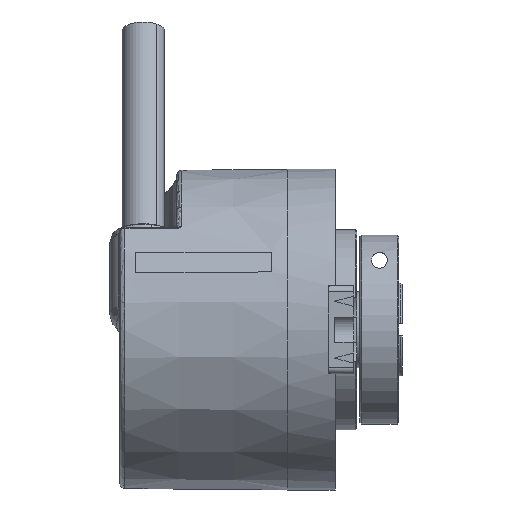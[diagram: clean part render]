
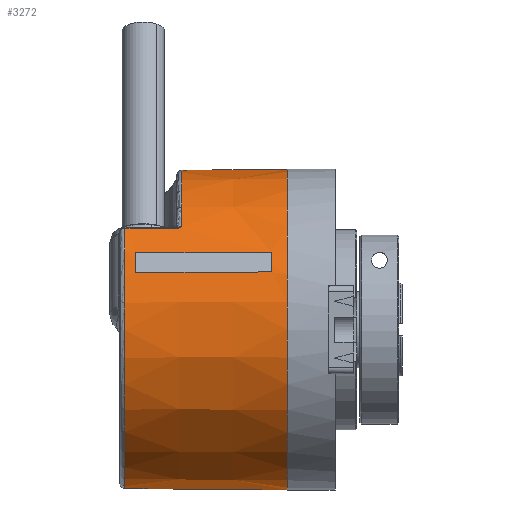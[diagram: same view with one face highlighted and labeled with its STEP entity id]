
A CAD part, front view. The second image highlights one B-rep face of the part: STEP entity #3272.
In plain terms, the highlighted conical face has half-angle 0.5 degrees and reference radius 25.4 mm.
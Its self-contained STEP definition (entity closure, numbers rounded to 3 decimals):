
#1061 = ORIENTED_EDGE ( 'NONE', *, *, #3100, .F. ) ;
#1068 = ORIENTED_EDGE ( 'NONE', *, *, #2926, .F. ) ;
#1069 = ORIENTED_EDGE ( 'NONE', *, *, #3060, .T. ) ;
#1070 = ORIENTED_EDGE ( 'NONE', *, *, #2846, .F. ) ;
#1071 = ORIENTED_EDGE ( 'NONE', *, *, #4244, .T. ) ;
#1076 = EDGE_LOOP ( 'NONE', ( #1068, #1069, #1070, #1080 ) ) ;
#1077 = EDGE_CURVE ( 'NONE', #3264, #4250, #1548, .T. ) ;
#1080 = ORIENTED_EDGE ( 'NONE', *, *, #3866, .F. ) ;
#1081 = ORIENTED_EDGE ( 'NONE', *, *, #4273, .T. ) ;
#1523 = CARTESIAN_POINT ( 'NONE',  ( -20.207, -19.395, 16.051 ) ) ;
#1524 = CARTESIAN_POINT ( 'NONE',  ( -18.111, -19.412, 16.059 ) ) ;
#1525 = CARTESIAN_POINT ( 'NONE',  ( -16.015, -19.43, 16.067 ) ) ;
#1526 = CARTESIAN_POINT ( 'NONE',  ( -13.918, -19.447, 16.075 ) ) ;
#1527 = CARTESIAN_POINT ( 'NONE',  ( -13.385, -19.451, 16.077 ) ) ;
#1528 = CARTESIAN_POINT ( 'NONE',  ( -12.852, -19.455, 16.079 ) ) ;
#1535 = CARTESIAN_POINT ( 'NONE',  ( -12.318, -19.46, 16.081 ) ) ;
#1536 = CARTESIAN_POINT ( 'NONE',  ( -12.185, -19.461, 16.082 ) ) ;
#1537 = CARTESIAN_POINT ( 'NONE',  ( -12.052, -19.462, 16.082 ) ) ;
#1538 = CARTESIAN_POINT ( 'NONE',  ( -11.918, -19.463, 16.083 ) ) ;
#1548 = B_SPLINE_CURVE_WITH_KNOTS ( 'NONE', 3,
 ( #1538, #1537, #1536, #1535, #1528, #1527, #1526, #1525, #1524, #1523 ),
 .UNSPECIFIED., .F., .F.,
 ( 4, 3, 3, 4 ),
 ( 0., 0., 0.002, 0.008 ),
 .UNSPECIFIED. ) ;
#2846 = EDGE_CURVE ( 'NONE', #3027, #3028, #6341, .T. ) ;
#2926 = EDGE_CURVE ( 'NONE', #3047, #2927, #6726, .T. ) ;
#2927 = VERTEX_POINT ( 'NONE', #6727 ) ;
#3027 = VERTEX_POINT ( 'NONE', #6974 ) ;
#3028 = VERTEX_POINT ( 'NONE', #6973 ) ;
#3047 = VERTEX_POINT ( 'NONE', #6987 ) ;
#3060 = EDGE_CURVE ( 'NONE', #3047, #3028, #7152, .T. ) ;
#3100 = EDGE_CURVE ( 'NONE', #4275, #4320, #7079, .T. ) ;
#3263 = EDGE_CURVE ( 'NONE', #4337, #3264, #7534, .T. ) ;
#3264 = VERTEX_POINT ( 'NONE', #7532 ) ;
#3265 = ORIENTED_EDGE ( 'NONE', *, *, #1077, .T. ) ;
#3266 = ORIENTED_EDGE ( 'NONE', *, *, #3263, .T. ) ;
#3267 = ORIENTED_EDGE ( 'NONE', *, *, #4287, .F. ) ;
#3268 = ORIENTED_EDGE ( 'NONE', *, *, #4335, .T. ) ;
#3272 = ADVANCED_FACE ( 'NONE', ( #7531, #7564 ), #7544, .T. ) ;
#3273 = EDGE_LOOP ( 'NONE', ( #3267, #3268, #3266, #3265, #1081, #1071, #1061 ) ) ;
#3866 = EDGE_CURVE ( 'NONE', #2927, #3027, #8952, .T. ) ;
#4244 = EDGE_CURVE ( 'NONE', #4277, #4320, #9987, .T. ) ;
#4250 = VERTEX_POINT ( 'NONE', #9973 ) ;
#4273 = EDGE_CURVE ( 'NONE', #4250, #4277, #10055, .T. ) ;
#4275 = VERTEX_POINT ( 'NONE', #10108 ) ;
#4277 = VERTEX_POINT ( 'NONE', #10107 ) ;
#4287 = EDGE_CURVE ( 'NONE', #4336, #4275, #10124, .T. ) ;
#4320 = VERTEX_POINT ( 'NONE', #10248 ) ;
#4335 = EDGE_CURVE ( 'NONE', #4336, #4337, #10279, .T. ) ;
#4336 = VERTEX_POINT ( 'NONE', #10274 ) ;
#4337 = VERTEX_POINT ( 'NONE', #10273 ) ;
#6341 = B_SPLINE_CURVE_WITH_KNOTS ( 'NONE', 3,
 ( #6366, #6373, #6372, #6371, #6409, #6408, #6407 ),
 .UNSPECIFIED., .F., .F.,
 ( 4, 3, 4 ),
 ( 0.003, 0.022, 0.025 ),
 .UNSPECIFIED. ) ;
#6366 = CARTESIAN_POINT ( 'NONE',  ( 3., -22.222, 12.257 ) ) ;
#6371 = CARTESIAN_POINT ( 'NONE',  ( -15.81, -22.075, 12.183 ) ) ;
#6372 = CARTESIAN_POINT ( 'NONE',  ( -9.54, -22.124, 12.208 ) ) ;
#6373 = CARTESIAN_POINT ( 'NONE',  ( -3.27, -22.173, 12.232 ) ) ;
#6407 = CARTESIAN_POINT ( 'NONE',  ( -18.5, -22.055, 12.172 ) ) ;
#6408 = CARTESIAN_POINT ( 'NONE',  ( -17.603, -22.061, 12.176 ) ) ;
#6409 = CARTESIAN_POINT ( 'NONE',  ( -16.707, -22.068, 12.179 ) ) ;
#6588 = CARTESIAN_POINT ( 'NONE',  ( -15.812, -23.522, 9.08 ) ) ;
#6589 = CARTESIAN_POINT ( 'NONE',  ( -16.708, -23.515, 9.077 ) ) ;
#6590 = CARTESIAN_POINT ( 'NONE',  ( -17.604, -23.508, 9.074 ) ) ;
#6591 = CARTESIAN_POINT ( 'NONE',  ( -18.5, -23.501, 9.071 ) ) ;
#6700 = CARTESIAN_POINT ( 'NONE',  ( 3., -23.674, 9.144 ) ) ;
#6701 = CARTESIAN_POINT ( 'NONE',  ( -3.271, -23.623, 9.123 ) ) ;
#6702 = CARTESIAN_POINT ( 'NONE',  ( -9.541, -23.573, 9.101 ) ) ;
#6726 = B_SPLINE_CURVE_WITH_KNOTS ( 'NONE', 3,
 ( #6591, #6590, #6589, #6588, #6702, #6701, #6700 ),
 .UNSPECIFIED., .F., .F.,
 ( 4, 3, 4 ),
 ( 0.019, 0.022, 0.041 ),
 .UNSPECIFIED. ) ;
#6727 = CARTESIAN_POINT ( 'NONE',  ( 3., -23.674, 9.144 ) ) ;
#6973 = CARTESIAN_POINT ( 'NONE',  ( -18.5, -22.055, 12.172 ) ) ;
#6974 = CARTESIAN_POINT ( 'NONE',  ( 3., -22.222, 12.257 ) ) ;
#6987 = CARTESIAN_POINT ( 'NONE',  ( -18.5, -23.501, 9.071 ) ) ;
#7076 = DIRECTION ( 'NONE',  ( 0., 0., -1. ) ) ;
#7077 = DIRECTION ( 'NONE',  ( 1., 0., 0. ) ) ;
#7078 = AXIS2_PLACEMENT_3D ( 'NONE', #7085, #7077, #7076 ) ;
#7079 = CIRCLE ( 'NONE', #7078, 25.4 ) ;
#7085 = CARTESIAN_POINT ( 'NONE',  ( 5.5, 0., 0. ) ) ;
#7148 = AXIS2_PLACEMENT_3D ( 'NONE', #7161, #7160, #7159 ) ;
#7152 = CIRCLE ( 'NONE', #7148, 25.191 ) ;
#7159 = DIRECTION ( 'NONE',  ( 0., 0., -1. ) ) ;
#7160 = DIRECTION ( 'NONE',  ( -1., 0., 0. ) ) ;
#7161 = CARTESIAN_POINT ( 'NONE',  ( -18.5, 0., 0. ) ) ;
#7531 = FACE_OUTER_BOUND ( 'NONE', #3273, .T. ) ;
#7532 = CARTESIAN_POINT ( 'NONE',  ( -11.918, -19.463, 16.083 ) ) ;
#7534 = B_SPLINE_CURVE_WITH_KNOTS ( 'NONE', 3,
 ( #7561, #7560, #7559, #7558, #7586, #7585 ),
 .UNSPECIFIED., .F., .F.,
 ( 4, 2, 4 ),
 ( 0., 0., 0.001 ),
 .UNSPECIFIED. ) ;
#7543 = AXIS2_PLACEMENT_3D ( 'NONE', #7644, #7643, #7642 ) ;
#7544 = CONICAL_SURFACE ( 'NONE', #7543, 25.4, 0.009 ) ;
#7558 = CARTESIAN_POINT ( 'NONE',  ( -11.656, -19.442, 16.111 ) ) ;
#7559 = CARTESIAN_POINT ( 'NONE',  ( -11.418, -19.373, 16.198 ) ) ;
#7560 = CARTESIAN_POINT ( 'NONE',  ( -11.31, -19.325, 16.257 ) ) ;
#7561 = CARTESIAN_POINT ( 'NONE',  ( -11.207, -19.272, 16.321 ) ) ;
#7564 = FACE_BOUND ( 'NONE', #1076, .T. ) ;
#7585 = CARTESIAN_POINT ( 'NONE',  ( -11.918, -19.463, 16.083 ) ) ;
#7586 = CARTESIAN_POINT ( 'NONE',  ( -11.785, -19.464, 16.083 ) ) ;
#7642 = DIRECTION ( 'NONE',  ( 0., 0., -1. ) ) ;
#7643 = DIRECTION ( 'NONE',  ( 1., 0., 0. ) ) ;
#7644 = CARTESIAN_POINT ( 'NONE',  ( 5.5, 0., 0. ) ) ;
#8948 = DIRECTION ( 'NONE',  ( 0., 0., -1. ) ) ;
#8949 = DIRECTION ( 'NONE',  ( -1., 0., 0. ) ) ;
#8950 = CARTESIAN_POINT ( 'NONE',  ( 3., 0., 0. ) ) ;
#8951 = AXIS2_PLACEMENT_3D ( 'NONE', #8950, #8949, #8948 ) ;
#8952 = CIRCLE ( 'NONE', #8951, 25.378 ) ;
#9973 = CARTESIAN_POINT ( 'NONE',  ( -20.207, -19.395, 16.051 ) ) ;
#9984 = DIRECTION ( 'NONE',  ( 1., 0., -0.009 ) ) ;
#9985 = VECTOR ( 'NONE', #9984, 1000. ) ;
#9986 = CARTESIAN_POINT ( 'NONE',  ( 5.5, 0., -25.4 ) ) ;
#9987 = LINE ( 'NONE', #9986, #9985 ) ;
#10055 = CIRCLE ( 'NONE', #10112, 25.176 ) ;
#10107 = CARTESIAN_POINT ( 'NONE',  ( -20.207, 0., -25.176 ) ) ;
#10108 = CARTESIAN_POINT ( 'NONE',  ( 5.5, 0., 25.4 ) ) ;
#10109 = DIRECTION ( 'NONE',  ( 0., 0., -1. ) ) ;
#10110 = DIRECTION ( 'NONE',  ( 1., 0., 0. ) ) ;
#10111 = CARTESIAN_POINT ( 'NONE',  ( -20.207, 0., 0. ) ) ;
#10112 = AXIS2_PLACEMENT_3D ( 'NONE', #10111, #10110, #10109 ) ;
#10121 = DIRECTION ( 'NONE',  ( 1., 0., 0.009 ) ) ;
#10122 = VECTOR ( 'NONE', #10121, 1000. ) ;
#10123 = CARTESIAN_POINT ( 'NONE',  ( 5.5, 0., 25.4 ) ) ;
#10124 = LINE ( 'NONE', #10123, #10122 ) ;
#10248 = CARTESIAN_POINT ( 'NONE',  ( 5.5, 0., -25.4 ) ) ;
#10273 = CARTESIAN_POINT ( 'NONE',  ( -11.207, -19.272, 16.321 ) ) ;
#10274 = CARTESIAN_POINT ( 'NONE',  ( -11.207, 0., 25.254 ) ) ;
#10275 = DIRECTION ( 'NONE',  ( 0., 0., 1. ) ) ;
#10276 = DIRECTION ( 'NONE',  ( 1., 0., 0. ) ) ;
#10277 = CARTESIAN_POINT ( 'NONE',  ( -11.207, 0., 0. ) ) ;
#10278 = AXIS2_PLACEMENT_3D ( 'NONE', #10277, #10276, #10275 ) ;
#10279 = CIRCLE ( 'NONE', #10278, 25.254 ) ;
